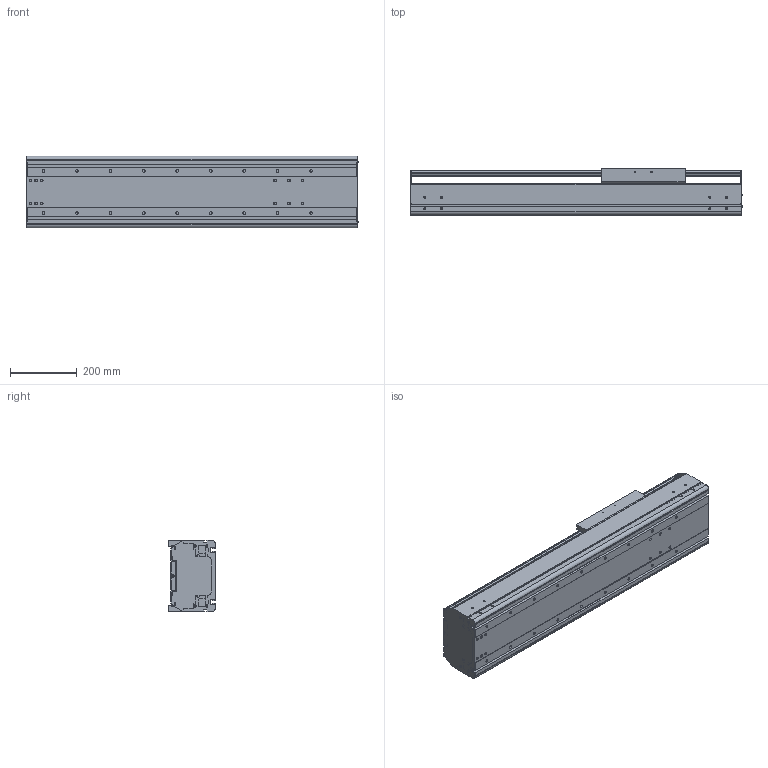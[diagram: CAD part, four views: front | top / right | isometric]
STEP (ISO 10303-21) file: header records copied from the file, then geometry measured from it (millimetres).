
FILE_DESCRIPTION((''),'2;1');
FILE_NAME('BE60J-ST-M_N-50_IGS_PRT','2017-06-18T',(' '),(''),'PRO/ENGINEER BY PARAMETRIC TECHNOLOGY CORPORATION, 2015030','PRO/ENGINEER BY PARAMETRIC TECHNOLOGY CORPORATION, 2015030','');
FILE_SCHEMA(('CONFIG_CONTROL_DESIGN'));
Length unit declared in the file: millimetre
Products named in the file (1): BE60J-ST-M_N-50_IGS_PRT
Bounding box: 992.4 x 140 x 214 mm (x, y, z)
Volume: 7980210.1 mm3; surface area: 2192514.3 mm2
Topology: 2 solids, 128 shells, 1365 faces, 3734 edges, 2498 vertices
Faces by surface type: cylinder 662, plane 573, cone 82, torus 24, sphere 24
Entity records: 44997 total; most frequent: CARTESIAN_POINT 9840, DIRECTION 7422, ORIENTED_EDGE 6936, EDGE_CURVE 3686, AXIS2_PLACEMENT_3D 2752, VERTEX_POINT 2498, VECTOR 1918, LINE 1918
